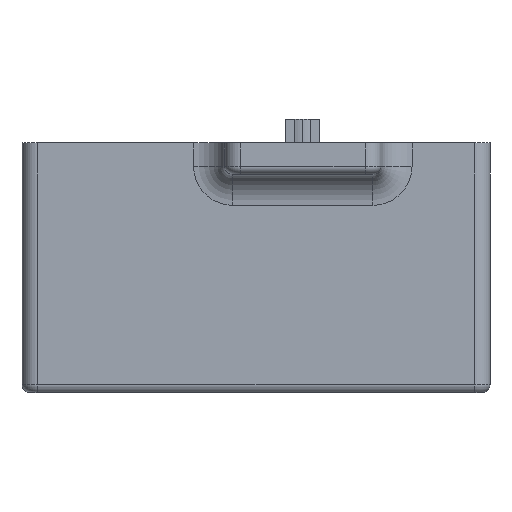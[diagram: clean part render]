
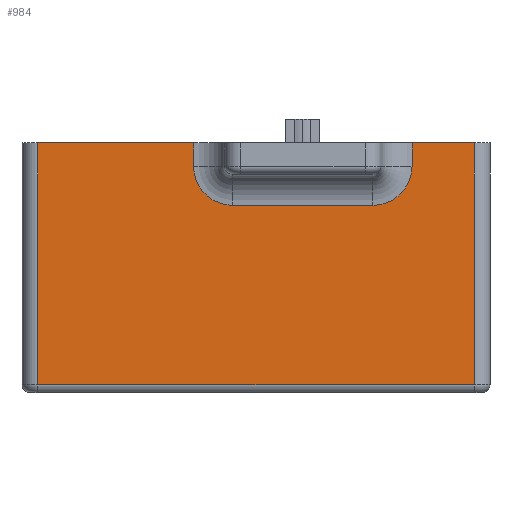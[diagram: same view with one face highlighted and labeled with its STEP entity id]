
A CAD part, left-side view. The second image highlights one B-rep face of the part: STEP entity #984.
In plain terms, the highlighted planar face has unit normal (-1, 0, 0).
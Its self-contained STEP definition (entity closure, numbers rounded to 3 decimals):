
#37 = CARTESIAN_POINT ( 'NONE',  ( -7.75, -7.5, -2. ) ) ;
#78 = CARTESIAN_POINT ( 'NONE',  ( -7.75, -19., 0.5 ) ) ;
#107 = VERTEX_POINT ( 'NONE', #4692 ) ;
#151 = DIRECTION ( 'NONE',  ( 1., 0., 0. ) ) ;
#570 = CARTESIAN_POINT ( 'NONE',  ( -7.75, 0., -14. ) ) ;
#574 = VECTOR ( 'NONE', #4961, 1000. ) ;
#608 = VERTEX_POINT ( 'NONE', #1842 ) ;
#658 = CIRCLE ( 'NONE', #2065, 2.5 ) ;
#663 = EDGE_CURVE ( 'NONE', #2683, #1930, #4321, .T. ) ;
#742 = VECTOR ( 'NONE', #4255, 1000. ) ;
#887 = CARTESIAN_POINT ( 'NONE',  ( -7.75, -5., 2. ) ) ;
#953 = ORIENTED_EDGE ( 'NONE', *, *, #3799, .T. ) ;
#984 = ADVANCED_FACE ( 'NONE', ( #3422 ), #3471, .F. ) ;
#1041 = CARTESIAN_POINT ( 'NONE',  ( -7.75, -23., 2. ) ) ;
#1178 = DIRECTION ( 'NONE',  ( 1., 0., 0. ) ) ;
#1179 = VERTEX_POINT ( 'NONE', #1041 ) ;
#1228 = VECTOR ( 'NONE', #4394, 1000. ) ;
#1278 = DIRECTION ( 'NONE',  ( 0., 0., 1. ) ) ;
#1335 = DIRECTION ( 'NONE',  ( 0., 0., 1. ) ) ;
#1498 = VERTEX_POINT ( 'NONE', #2333 ) ;
#1499 = CARTESIAN_POINT ( 'NONE',  ( -7.75, -16.5, -2. ) ) ;
#1503 = EDGE_CURVE ( 'NONE', #107, #3228, #1637, .T. ) ;
#1571 = LINE ( 'NONE', #3277, #574 ) ;
#1583 = EDGE_CURVE ( 'NONE', #608, #1179, #3792, .T. ) ;
#1637 = LINE ( 'NONE', #2364, #1228 ) ;
#1651 = CARTESIAN_POINT ( 'NONE',  ( -7.75, -7.5, 0.5 ) ) ;
#1693 = CARTESIAN_POINT ( 'NONE',  ( -7.75, -5., 0.5 ) ) ;
#1820 = AXIS2_PLACEMENT_3D ( 'NONE', #570, #151, #2283 ) ;
#1842 = CARTESIAN_POINT ( 'NONE',  ( -7.75, -23., -13.5 ) ) ;
#1930 = VERTEX_POINT ( 'NONE', #3557 ) ;
#2051 = ORIENTED_EDGE ( 'NONE', *, *, #1583, .T. ) ;
#2063 = ORIENTED_EDGE ( 'NONE', *, *, #2172, .T. ) ;
#2065 = AXIS2_PLACEMENT_3D ( 'NONE', #5071, #1178, #5396 ) ;
#2134 = LINE ( 'NONE', #37, #4281 ) ;
#2172 = EDGE_CURVE ( 'NONE', #1498, #2431, #2772, .T. ) ;
#2180 = VECTOR ( 'NONE', #3911, 1000. ) ;
#2200 = ORIENTED_EDGE ( 'NONE', *, *, #4780, .T. ) ;
#2258 = EDGE_LOOP ( 'NONE', ( #2200, #3364, #953, #4130, #2063, #3255, #5249, #5460, #4807, #2051 ) ) ;
#2283 = DIRECTION ( 'NONE',  ( 0., 0., -1. ) ) ;
#2333 = CARTESIAN_POINT ( 'NONE',  ( -7.75, -7.5, -2. ) ) ;
#2350 = DIRECTION ( 'NONE',  ( 0., 0., -1. ) ) ;
#2364 = CARTESIAN_POINT ( 'NONE',  ( -7.75, 0., 2. ) ) ;
#2431 = VERTEX_POINT ( 'NONE', #1693 ) ;
#2580 = CARTESIAN_POINT ( 'NONE',  ( -7.75, -23., -13.5 ) ) ;
#2582 = EDGE_CURVE ( 'NONE', #3189, #608, #3921, .T. ) ;
#2642 = LINE ( 'NONE', #887, #4191 ) ;
#2683 = VERTEX_POINT ( 'NONE', #4804 ) ;
#2772 = CIRCLE ( 'NONE', #5333, 2.5 ) ;
#3055 = CARTESIAN_POINT ( 'NONE',  ( -7.75, 5., -13.5 ) ) ;
#3189 = VERTEX_POINT ( 'NONE', #3055 ) ;
#3228 = VERTEX_POINT ( 'NONE', #3455 ) ;
#3255 = ORIENTED_EDGE ( 'NONE', *, *, #4512, .T. ) ;
#3277 = CARTESIAN_POINT ( 'NONE',  ( -7.75, 0., 2. ) ) ;
#3332 = EDGE_CURVE ( 'NONE', #3228, #3189, #4794, .T. ) ;
#3364 = ORIENTED_EDGE ( 'NONE', *, *, #663, .T. ) ;
#3422 = FACE_OUTER_BOUND ( 'NONE', #2258, .T. ) ;
#3455 = CARTESIAN_POINT ( 'NONE',  ( -7.75, 5., 2. ) ) ;
#3471 = PLANE ( 'NONE',  #1820 ) ;
#3557 = CARTESIAN_POINT ( 'NONE',  ( -7.75, -19., 0.5 ) ) ;
#3792 = LINE ( 'NONE', #5114, #5274 ) ;
#3799 = EDGE_CURVE ( 'NONE', #1930, #5361, #658, .T. ) ;
#3911 = DIRECTION ( 'NONE',  ( 0., 0., -1. ) ) ;
#3921 = LINE ( 'NONE', #2580, #742 ) ;
#4130 = ORIENTED_EDGE ( 'NONE', *, *, #5251, .T. ) ;
#4158 = DIRECTION ( 'NONE',  ( 1., 0., 0. ) ) ;
#4189 = DIRECTION ( 'NONE',  ( 0., 0., -1. ) ) ;
#4191 = VECTOR ( 'NONE', #1278, 1000. ) ;
#4255 = DIRECTION ( 'NONE',  ( 0., -1., 0. ) ) ;
#4281 = VECTOR ( 'NONE', #5191, 1000. ) ;
#4321 = LINE ( 'NONE', #78, #2180 ) ;
#4380 = CARTESIAN_POINT ( 'NONE',  ( -7.75, 5., -14. ) ) ;
#4394 = DIRECTION ( 'NONE',  ( 0., 1., 0. ) ) ;
#4512 = EDGE_CURVE ( 'NONE', #2431, #107, #2642, .T. ) ;
#4692 = CARTESIAN_POINT ( 'NONE',  ( -7.75, -5., 2. ) ) ;
#4780 = EDGE_CURVE ( 'NONE', #1179, #2683, #1571, .T. ) ;
#4794 = LINE ( 'NONE', #4380, #5410 ) ;
#4804 = CARTESIAN_POINT ( 'NONE',  ( -7.75, -19., 2. ) ) ;
#4807 = ORIENTED_EDGE ( 'NONE', *, *, #2582, .T. ) ;
#4961 = DIRECTION ( 'NONE',  ( 0., 1., 0. ) ) ;
#5071 = CARTESIAN_POINT ( 'NONE',  ( -7.75, -16.5, 0.5 ) ) ;
#5114 = CARTESIAN_POINT ( 'NONE',  ( -7.75, -23., -14. ) ) ;
#5191 = DIRECTION ( 'NONE',  ( 0., 1., 0. ) ) ;
#5249 = ORIENTED_EDGE ( 'NONE', *, *, #1503, .T. ) ;
#5251 = EDGE_CURVE ( 'NONE', #5361, #1498, #2134, .T. ) ;
#5274 = VECTOR ( 'NONE', #1335, 1000. ) ;
#5333 = AXIS2_PLACEMENT_3D ( 'NONE', #1651, #4158, #4189 ) ;
#5361 = VERTEX_POINT ( 'NONE', #1499 ) ;
#5396 = DIRECTION ( 'NONE',  ( 0., 0., -1. ) ) ;
#5410 = VECTOR ( 'NONE', #2350, 1000. ) ;
#5460 = ORIENTED_EDGE ( 'NONE', *, *, #3332, .T. ) ;
